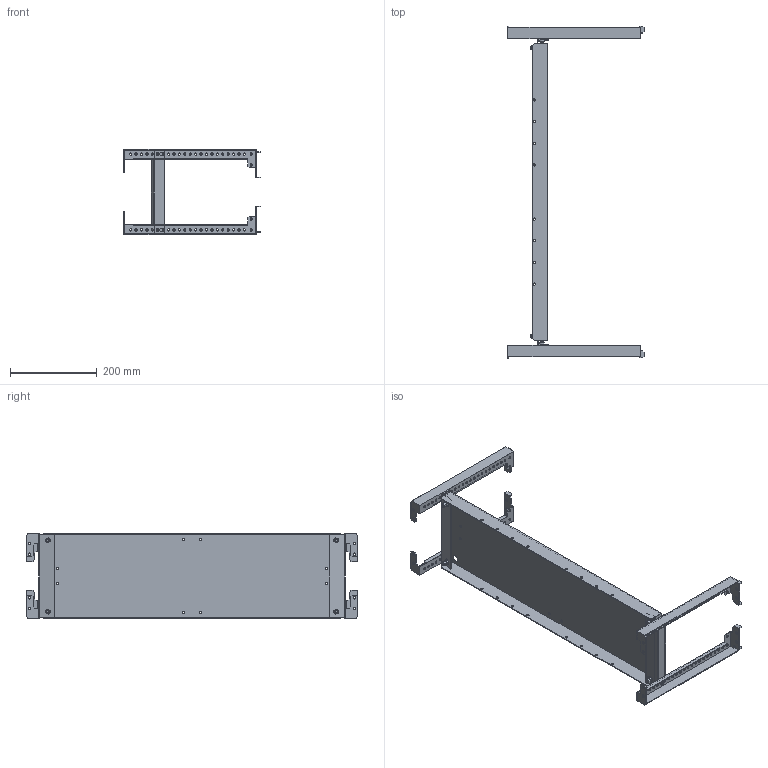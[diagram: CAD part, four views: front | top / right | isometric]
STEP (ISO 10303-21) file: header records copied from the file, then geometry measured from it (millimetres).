
FILE_DESCRIPTION (( 'STEP AP214' ), '1' );
FILE_NAME ('FO-00-MPU-020-080 Ïàíåëü ìîíòàæíàÿ óíèâåðñàëüíàÿ 200?800 ìì.STEP', '2025-07-16T07:07:26', ( '' ), ( '' ), 'SwSTEP 2.0', 'SolidWorks 2023', '' );
FILE_SCHEMA (( 'AUTOMOTIVE_DESIGN' ));
Length unit declared in the file: millimetre
Products named in the file (5): Панель монтажная универсальная 200×800; Траверса горизонтальная; FO-00-MPU-020-080 Панель монтажная универсальная 200×800 мм; Траверса горизонтальнаяD; Винты DIN 912 4xM6x20 200x800
Assembly tree (6 placements, depth 2):
  FO-00-MPU-020-080 Панель монтажная универсальная 200×800 мм
    Панель монтажная универсальная 200×800
    Винты DIN 912 4xM6x20 200x800
    Траверса горизонтальная  x2
    Траверса горизонтальнаяD  x2
Bounding box: 314.53 x 765.82 x 197 mm (x, y, z)
Volume: 611585.3 mm3; surface area: 628082.3 mm2
Topology: 9 solids, 13 shells, 1010 faces, 2744 edges, 1808 vertices
Faces by surface type: cylinder 468, plane 454, cone 56, torus 32
Entity records: 26087 total; most frequent: CARTESIAN_POINT 5387, DIRECTION 4400, ORIENTED_EDGE 4156, EDGE_CURVE 2078, AXIS2_PLACEMENT_3D 1609, VERTEX_POINT 1364, VECTOR 1182, LINE 1182
